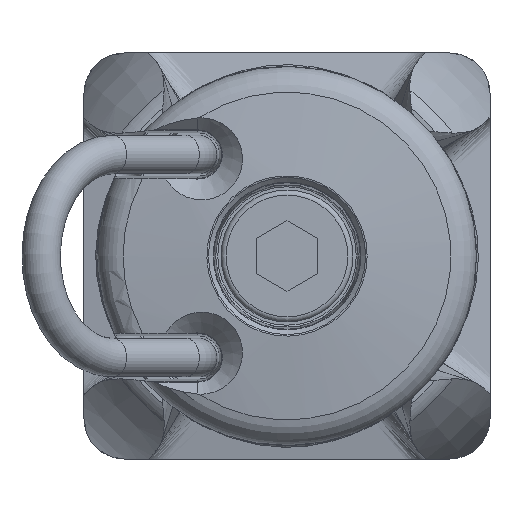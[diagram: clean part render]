
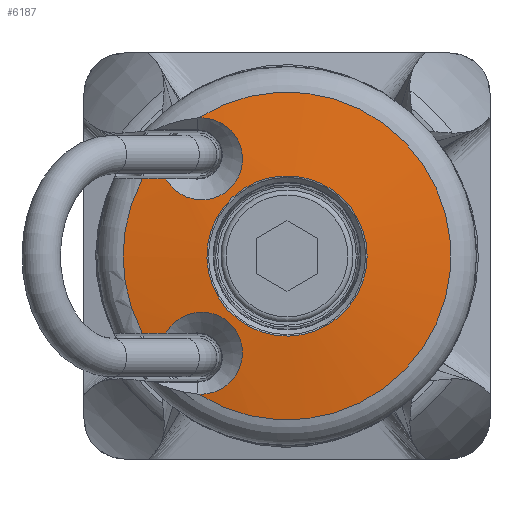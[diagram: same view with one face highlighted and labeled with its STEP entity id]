
A CAD part, left-side view. The second image highlights one B-rep face of the part: STEP entity #6187.
In plain terms, the highlighted spherical face has radius 100.629 mm.
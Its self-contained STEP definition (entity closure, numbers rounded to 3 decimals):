
#18=SPHERICAL_SURFACE('',#6901,100.629);
#1358=B_SPLINE_CURVE_WITH_KNOTS('',3,(#11098,#11099,#11100,#11101,#11102,
#11103,#11104,#11105,#11106,#11107,#11108),.UNSPECIFIED.,.F.,.F.,(4,1,1,
1,1,1,1,1,4),(0.003,0.005,0.007,
0.009,0.011,0.014,0.016,
0.018,0.02),.UNSPECIFIED.);
#1359=B_SPLINE_CURVE_WITH_KNOTS('',3,(#11113,#11114,#11115,#11116,#11117,
#11118,#11119,#11120,#11121,#11122,#11123),.UNSPECIFIED.,.F.,.F.,(4,1,1,
1,1,1,1,1,4),(0.,0.002,0.004,
0.006,0.009,0.011,0.013,
0.015,0.017),.UNSPECIFIED.);
#2974=ORIENTED_EDGE('',*,*,#3992,.T.);
#2975=ORIENTED_EDGE('',*,*,#3993,.T.);
#2976=ORIENTED_EDGE('',*,*,#3994,.T.);
#2977=ORIENTED_EDGE('',*,*,#3995,.T.);
#2978=ORIENTED_EDGE('',*,*,#3996,.T.);
#2979=ORIENTED_EDGE('',*,*,#3997,.T.);
#2980=ORIENTED_EDGE('',*,*,#3998,.F.);
#3992=EDGE_CURVE('',#4639,#4640,#1358,.T.);
#3993=EDGE_CURVE('',#4640,#4641,#4982,.T.);
#3994=EDGE_CURVE('',#4641,#4642,#1359,.T.);
#3995=EDGE_CURVE('',#4642,#4643,#4983,.F.);
#3996=EDGE_CURVE('',#4643,#4644,#4984,.T.);
#3997=EDGE_CURVE('',#4644,#4639,#4985,.F.);
#3998=EDGE_CURVE('',#4645,#4645,#4986,.T.);
#4639=VERTEX_POINT('',#11109);
#4640=VERTEX_POINT('',#11110);
#4641=VERTEX_POINT('',#11112);
#4642=VERTEX_POINT('',#11124);
#4643=VERTEX_POINT('',#11126);
#4644=VERTEX_POINT('',#11128);
#4645=VERTEX_POINT('',#11131);
#4982=CIRCLE('',#6902,16.15);
#4983=CIRCLE('',#6903,100.111);
#4984=CIRCLE('',#6904,16.15);
#4985=CIRCLE('',#6905,100.111);
#4986=CIRCLE('',#6906,7.894);
#5359=EDGE_LOOP('',(#2974,#2975,#2976,#2977,#2978,#2979));
#5360=EDGE_LOOP('',(#2980));
#5773=FACE_BOUND('',#5359,.T.);
#5774=FACE_BOUND('',#5360,.T.);
#6187=ADVANCED_FACE('',(#5773,#5774),#18,.T.);
#6901=AXIS2_PLACEMENT_3D('',#11097,#8574,#8575);
#6902=AXIS2_PLACEMENT_3D('',#11111,#8576,#8577);
#6903=AXIS2_PLACEMENT_3D('',#11125,#8578,#8579);
#6904=AXIS2_PLACEMENT_3D('',#11127,#8580,#8581);
#6905=AXIS2_PLACEMENT_3D('',#11129,#8582,#8583);
#6906=AXIS2_PLACEMENT_3D('',#11130,#8584,#8585);
#8574=DIRECTION('',(1.,0.,0.));
#8575=DIRECTION('',(0.,1.,0.));
#8576=DIRECTION('',(1.,0.,0.));
#8577=DIRECTION('',(0.,0.,-1.));
#8578=DIRECTION('',(0.026,1.,0.));
#8579=DIRECTION('',(-1.,0.026,0.));
#8580=DIRECTION('',(1.,0.,0.));
#8581=DIRECTION('',(0.,0.,-1.));
#8582=DIRECTION('',(0.026,-1.,0.));
#8583=DIRECTION('',(1.,0.026,0.));
#8584=DIRECTION('',(1.,0.,0.));
#8585=DIRECTION('',(0.,0.,-1.));
#11097=CARTESIAN_POINT('',(-89.871,0.,0.));
#11098=CARTESIAN_POINT('',(9.76,-7.594,11.925));
#11099=CARTESIAN_POINT('',(9.85,-6.971,11.57));
#11100=CARTESIAN_POINT('',(10.037,-5.925,10.536));
#11101=CARTESIAN_POINT('',(10.274,-5.336,8.383));
#11102=CARTESIAN_POINT('',(10.398,-5.927,6.231));
#11103=CARTESIAN_POINT('',(10.373,-7.557,4.681));
#11104=CARTESIAN_POINT('',(10.206,-9.739,4.199));
#11105=CARTESIAN_POINT('',(9.946,-11.852,4.881));
#11106=CARTESIAN_POINT('',(9.664,-13.34,6.531));
#11107=CARTESIAN_POINT('',(9.511,-13.65,7.976));
#11108=CARTESIAN_POINT('',(9.453,-13.607,8.7));
#11109=CARTESIAN_POINT('',(9.76,-7.594,11.925));
#11110=CARTESIAN_POINT('',(9.453,-13.607,8.7));
#11111=CARTESIAN_POINT('',(9.453,0.,0.));
#11112=CARTESIAN_POINT('',(9.453,13.607,8.7));
#11113=CARTESIAN_POINT('',(9.453,13.607,8.7));
#11114=CARTESIAN_POINT('',(9.511,13.65,7.976));
#11115=CARTESIAN_POINT('',(9.663,13.342,6.535));
#11116=CARTESIAN_POINT('',(9.946,11.853,4.882));
#11117=CARTESIAN_POINT('',(10.205,9.745,4.199));
#11118=CARTESIAN_POINT('',(10.373,7.557,4.681));
#11119=CARTESIAN_POINT('',(10.398,5.932,6.222));
#11120=CARTESIAN_POINT('',(10.274,5.335,8.385));
#11121=CARTESIAN_POINT('',(10.038,5.922,10.533));
#11122=CARTESIAN_POINT('',(9.849,6.976,11.572));
#11123=CARTESIAN_POINT('',(9.76,7.594,11.925));
#11124=CARTESIAN_POINT('',(9.76,7.594,11.925));
#11125=CARTESIAN_POINT('',(-89.604,10.196,0.));
#11126=CARTESIAN_POINT('',(9.453,7.602,14.249));
#11127=CARTESIAN_POINT('',(9.453,0.,0.));
#11128=CARTESIAN_POINT('',(9.453,-7.602,14.249));
#11129=CARTESIAN_POINT('',(-89.604,-10.196,0.));
#11130=CARTESIAN_POINT('',(10.448,0.,0.));
#11131=CARTESIAN_POINT('',(10.448,0.,-7.894));
